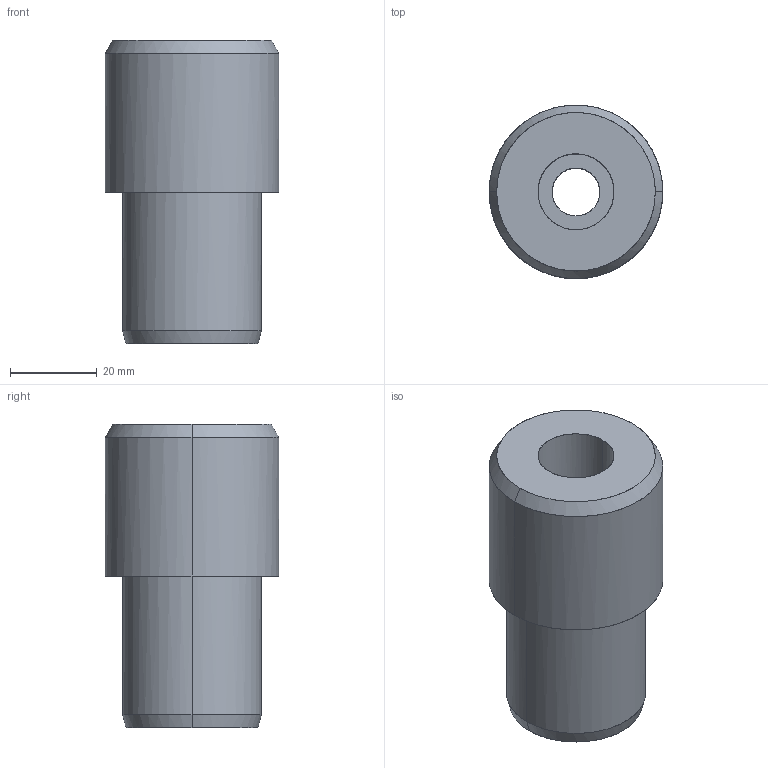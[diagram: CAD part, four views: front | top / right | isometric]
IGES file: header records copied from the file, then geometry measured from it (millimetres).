
Global section: file name: E:\UnigraphicsGraphicData\MISUMI_PRESS-PARTS\IGES\3d_lpl32_07123_r00.igs; native system: NX V5.0; preprocessor: UGS NX IGES V5.0; author: MISUMI; date: 20110105.161225; units: millimetre
Bounding box: 40 x 40 x 70 mm (x, y, z)
Surface area: 12904.2 mm2 (no closed solid volume)
Topology: 0 solids, 0 shells, 16 faces, 144 edges, 144 vertices
Faces by surface type: bspline 16
